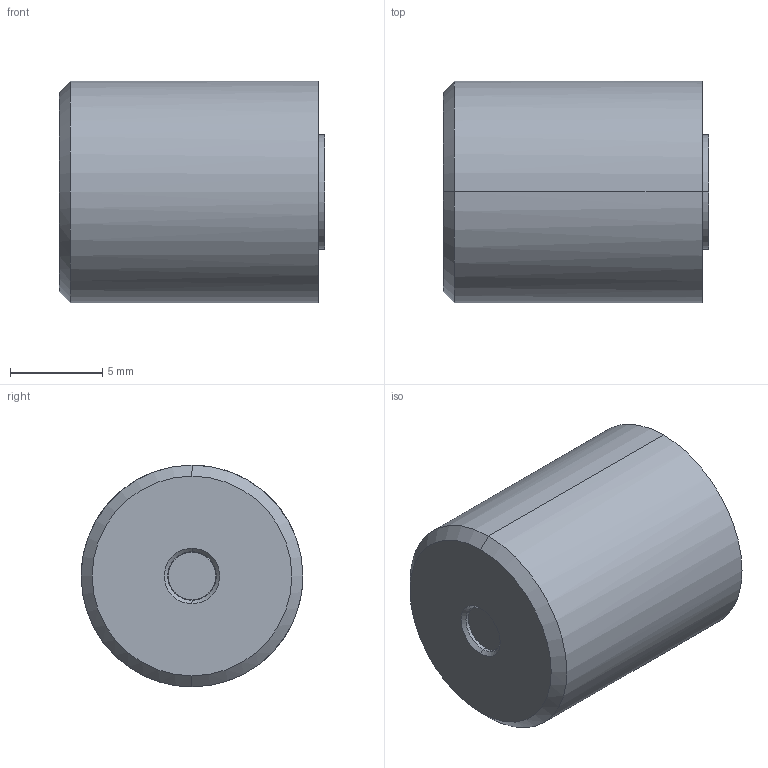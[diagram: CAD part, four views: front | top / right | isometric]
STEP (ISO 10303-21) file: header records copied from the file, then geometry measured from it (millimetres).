
FILE_DESCRIPTION(('CATIA V5 STEP Exchange'),'2;1');
FILE_NAME('C:\Users\Utente\Desktop\IO LAVORO\3D X SITO CF\X SITO\PLASTICA\D374\D374-12-A-DM-FA.stp','2021-03-30T10:32:37+00:00',('none'),('none'),'CATIA Version 5 Release 20 GA (IN-10)','CATIA V5 STEP AP203','none');
FILE_SCHEMA(('CONFIG_CONTROL_DESIGN'));
Length unit declared in the file: millimetre
Products named in the file (1): D374-12-A-DM-FA
Assembly tree (2 placements, depth 2):
  D374-12-A-DM-FA
    #58
    #6688
Bounding box: 14.35 x 12 x 12 mm (x, y, z)
Volume: 1385.9 mm3; surface area: 1216.8 mm2
Topology: 2 solids, 2 shells, 222 faces, 612 edges, 420 vertices
Faces by surface type: plane 137, cylinder 77, cone 8
Entity records: 7767 total; most frequent: CARTESIAN_POINT 2140, ORIENTED_EDGE 1224, DIRECTION 980, EDGE_CURVE 612, VERTEX_POINT 420, VECTOR 406, LINE 406, AXIS2_PLACEMENT_3D 349
